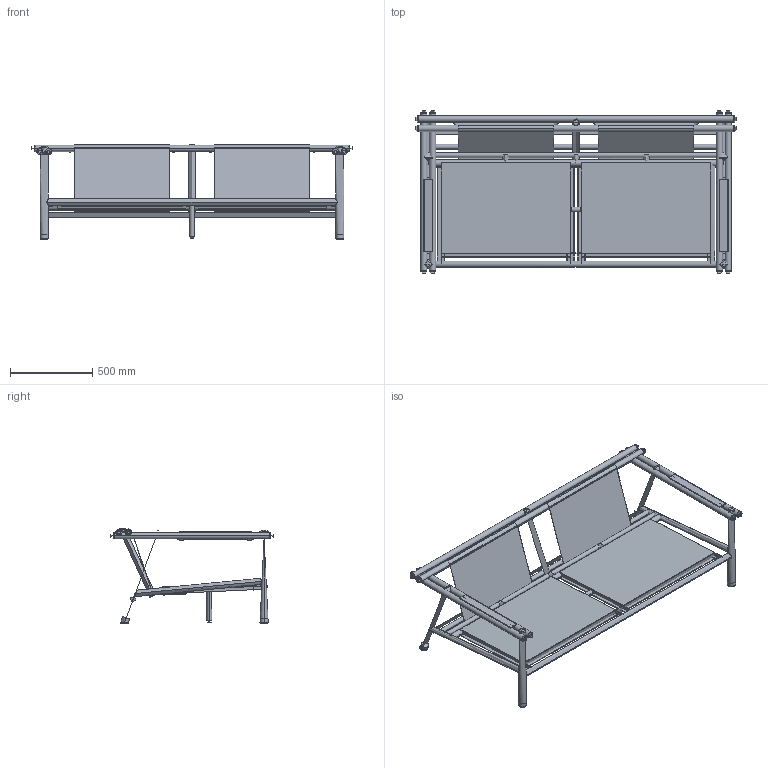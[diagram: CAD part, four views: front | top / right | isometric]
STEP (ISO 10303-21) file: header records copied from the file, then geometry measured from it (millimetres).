
FILE_DESCRIPTION(/* description */ (''),/* implementation_level */ '2;1');
FILE_NAME(/* name */ 'CANELI~1',/* time_stamp */ '2024-01-04T09:50:53+07:00',/* author */ (''),/* organization */ (''),/* preprocessor_version */ 'ST-DEVELOPER v16.5',/* originating_system */ '',/* authorisation */ '');
FILE_SCHEMA (('AUTOMOTIVE_DESIGN'));
Length unit declared in the file: centimetre
Products named in the file (1): Document
Bounding box: 1951 x 987.66 x 572.5 mm (x, y, z)
Volume: 42577644.9 mm3; surface area: 8904234.9 mm2
Topology: 89 solids, 89 shells, 654 faces, 1394 edges, 875 vertices
Faces by surface type: bspline 654
Entity records: 46672 total; most frequent: CARTESIAN_POINT 28619, B_SPLINE_CURVE_WITH_KNOTS 2929, ORIENTED_EDGE 2622, PCURVE 2622, DEFINITIONAL_REPRESENTATION 2622, SURFACE_CURVE 1311, EDGE_CURVE 1311, VERTEX_POINT 859
